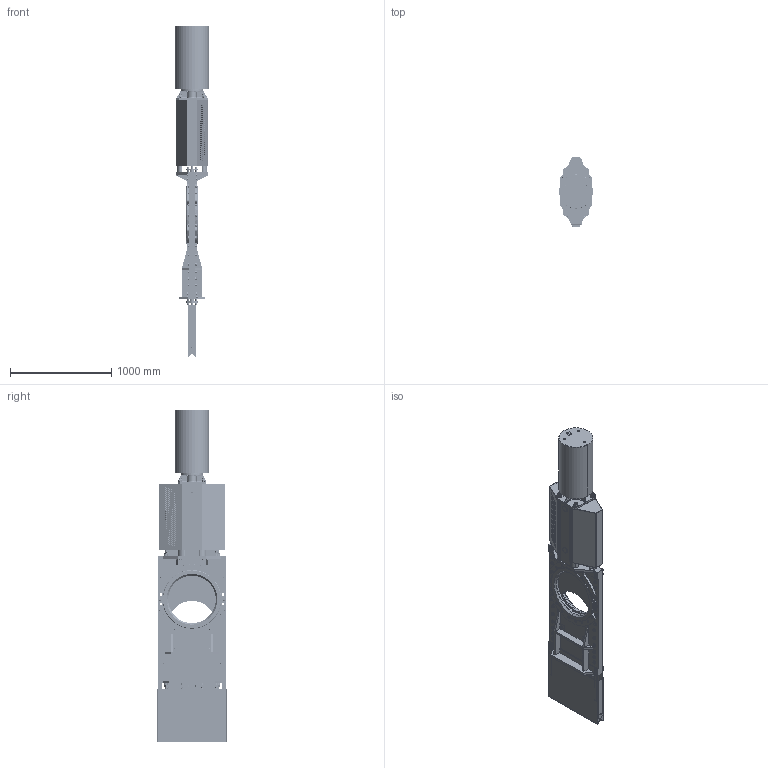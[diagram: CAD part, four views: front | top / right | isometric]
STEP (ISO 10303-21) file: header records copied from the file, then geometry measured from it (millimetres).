
FILE_DESCRIPTION(('STEP AP203'),'1');
FILE_NAME('F:/Alexander/CYLSAM/2D-3D/HG/500/HG-DN500-EC320.stp','2012-11-30T07:36:00',(' '),(' '),'Spatial InterOp 3D',' ',' ');
FILE_SCHEMA(('CONFIG_CONTROL_DESIGN'));
Length unit declared in the file: millimetre
Products named in the file (7): 1; 2; 3; 4; 5; 6; 7
Bounding box: 336 x 692.43 x 3277.5 mm (x, y, z)
Volume: 134801930 mm3; surface area: 12500408.2 mm2
Topology: 7 solids, 61 shells, 5120 faces, 12704 edges, 8080 vertices
Faces by surface type: plane 2018, cylinder 1944, cone 1124, torus 30, bspline 4
Entity records: 156848 total; most frequent: CARTESIAN_POINT 34811, DIRECTION 26208, ORIENTED_EDGE 25388, EDGE_CURVE 12694, AXIS2_PLACEMENT_3D 10311, VERTEX_POINT 8080, EDGE_LOOP 6130, LINE 5586
